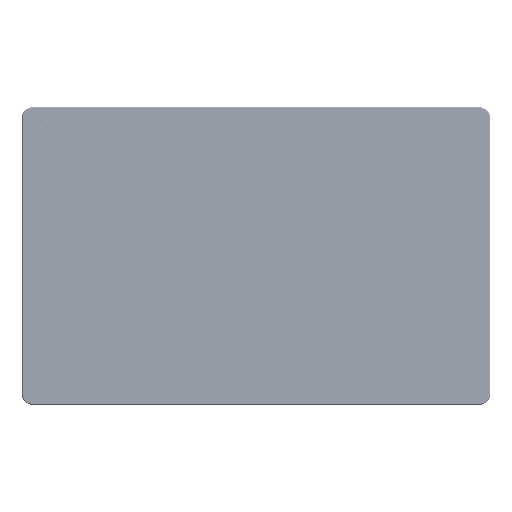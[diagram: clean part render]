
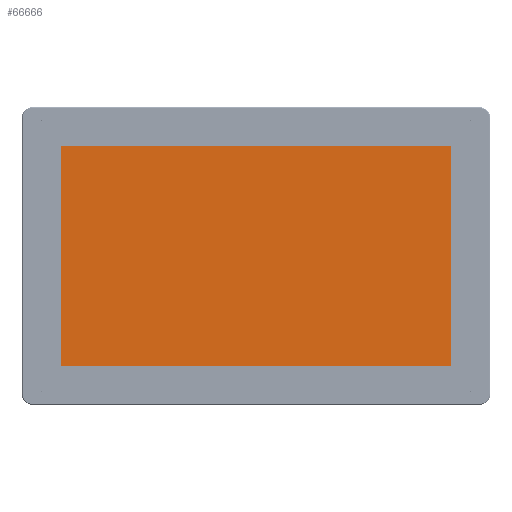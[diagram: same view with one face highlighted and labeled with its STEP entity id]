
A CAD part, top view. The second image highlights one B-rep face of the part: STEP entity #66666.
In plain terms, the highlighted planar face has unit normal (0, 0, 1).
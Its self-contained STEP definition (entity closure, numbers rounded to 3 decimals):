
#5239=LINE('',#660489,#9211);
#5243=LINE('',#660498,#9215);
#5246=LINE('',#660504,#9218);
#5249=LINE('',#660510,#9221);
#9211=VECTOR('',#301659,1.);
#9215=VECTOR('',#301665,1.);
#9218=VECTOR('',#301670,1.);
#9221=VECTOR('',#301675,1.);
#66666=ADVANCED_FACE('',(#87215),#72584,.F.);
#72584=PLANE('',#263672);
#87215=FACE_OUTER_BOUND('',#103381,.T.);
#103381=EDGE_LOOP('',(#180816,#180817,#180818,#180819));
#180816=ORIENTED_EDGE('',*,*,#244000,.F.);
#180817=ORIENTED_EDGE('',*,*,#244010,.F.);
#180818=ORIENTED_EDGE('',*,*,#244007,.F.);
#180819=ORIENTED_EDGE('',*,*,#244004,.F.);
#205279=VERTEX_POINT('',#660490);
#205280=VERTEX_POINT('',#660491);
#205283=VERTEX_POINT('',#660499);
#205285=VERTEX_POINT('',#660505);
#244000=EDGE_CURVE('',#205279,#205280,#5239,.T.);
#244004=EDGE_CURVE('',#205280,#205283,#5243,.T.);
#244007=EDGE_CURVE('',#205283,#205285,#5246,.T.);
#244010=EDGE_CURVE('',#205285,#205279,#5249,.T.);
#263672=AXIS2_PLACEMENT_3D('',#660514,#301681,#301682);
#301659=DIRECTION('',(0.,-1.,0.));
#301665=DIRECTION('',(-1.,0.,0.));
#301670=DIRECTION('',(0.,1.,0.));
#301675=DIRECTION('',(1.,0.,0.));
#301681=DIRECTION('',(0.,0.,-1.));
#301682=DIRECTION('',(-1.,0.,0.));
#660489=CARTESIAN_POINT('',(226.031,89.428,469.5));
#660490=CARTESIAN_POINT('',(226.031,92.428,469.5));
#660491=CARTESIAN_POINT('',(226.031,-128.982,469.5));
#660498=CARTESIAN_POINT('',(223.031,-128.982,469.5));
#660499=CARTESIAN_POINT('',(-162.459,-128.982,469.5));
#660504=CARTESIAN_POINT('',(-162.459,-125.982,469.5));
#660505=CARTESIAN_POINT('',(-162.459,92.428,469.5));
#660510=CARTESIAN_POINT('',(-159.459,92.428,469.5));
#660514=CARTESIAN_POINT('',(0.,0.,469.5));
